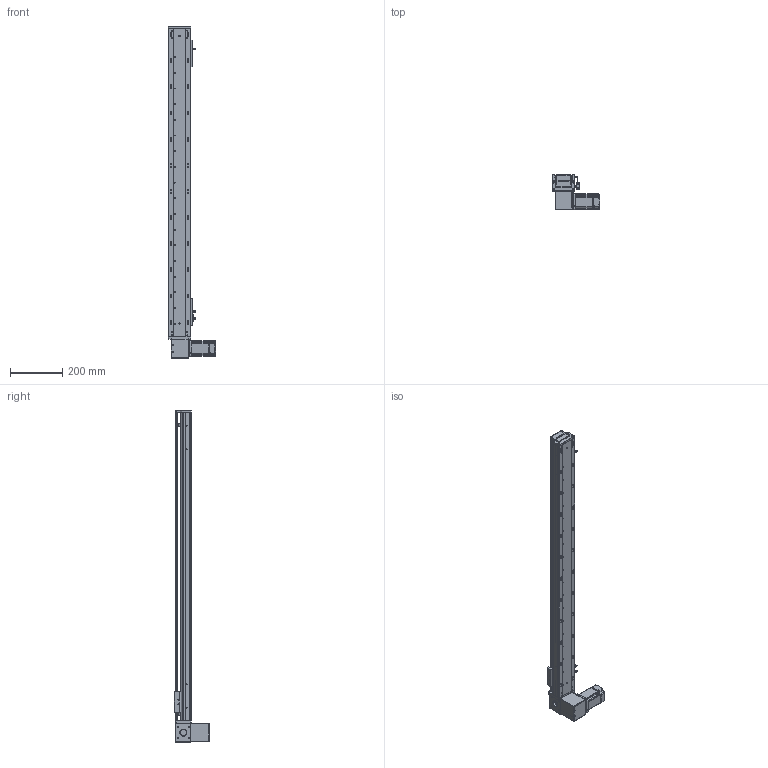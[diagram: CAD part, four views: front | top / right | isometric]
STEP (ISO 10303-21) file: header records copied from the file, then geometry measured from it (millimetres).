
FILE_DESCRIPTION (( 'STEP AP203' ), '1' );
FILE_NAME ('RY80-T-300-DR.SLDASM_1000.step', '2021-03-01T01:50:09', ( '盈信电脑' ), ( '东莞市道滘镇水果街19号' ), 'SwSTEP 2.0', 'SolidWorks 2012', '' );
FILE_SCHEMA (( 'CONFIG_CONTROL_DESIGN' ));
Length unit declared in the file: millimetre
Products named in the file (18): RY80-T-300-DR.SLDASM_1000; RY80-T萇儂假蚾啣; RY80-T-M4蹟翐3; RY80-T肮祭謫狟殏俋欶; 1; 滅袉蝶18-10; RY80-T肮祭湍揤輸2; RY80-T翋肮祭謫裔啣; RY80-T-上下折同步轮盖板; RY80俋离覜茼え; RY80-T肮祭湍揤輸1; RY80-T-翋肮祭謫釱; RY80-T-300-DR倰第奻裔啣_1000; 覜茼ん672; RY80-T綴裔啣; 672嫖萇羲壽假蚾釱; RY80-T肮祭謫臏賑輸; RY80-T-300-DR倰第菁釱_1000
Assembly tree (21 placements, depth 2):
  RY80-T-300-DR.SLDASM_1000
    RY80-T-300-DR倰第菁釱_1000
    RY80-T肮祭謫臏賑輸
    RY80-T-300-DR倰第奻裔啣_1000
    RY80-T綴裔啣
    672嫖萇羲壽假蚾釱  x2
    覜茼ん672  x3
    RY80俋离覜茼え
    RY80-T-翋肮祭謫釱
    RY80-T肮祭湍揤輸1
    RY80-T肮祭湍揤輸2
    滅袉蝶18-10  x2
    RY80-T翋肮祭謫裔啣
    RY80-T-上下折同步轮盖板
    RY80-T肮祭謫狟殏俋欶
    RY80-T萇儂假蚾啣
    1
    RY80-T-M4蹟翐3
Bounding box: 180 x 134.5 x 1270 mm (x, y, z)
Volume: 2158266.5 mm3; surface area: 906344.5 mm2
Topology: 21 solids, 21 shells, 2601 faces, 7245 edges, 4708 vertices
Faces by surface type: plane 1349, cylinder 1051, cone 145, bspline 56
Entity records: 84978 total; most frequent: CARTESIAN_POINT 21970, ORIENTED_EDGE 13134, DIRECTION 12074, EDGE_CURVE 6567, VERTEX_POINT 4312, AXIS2_PLACEMENT_3D 4096, LINE 3882, VECTOR 3882
